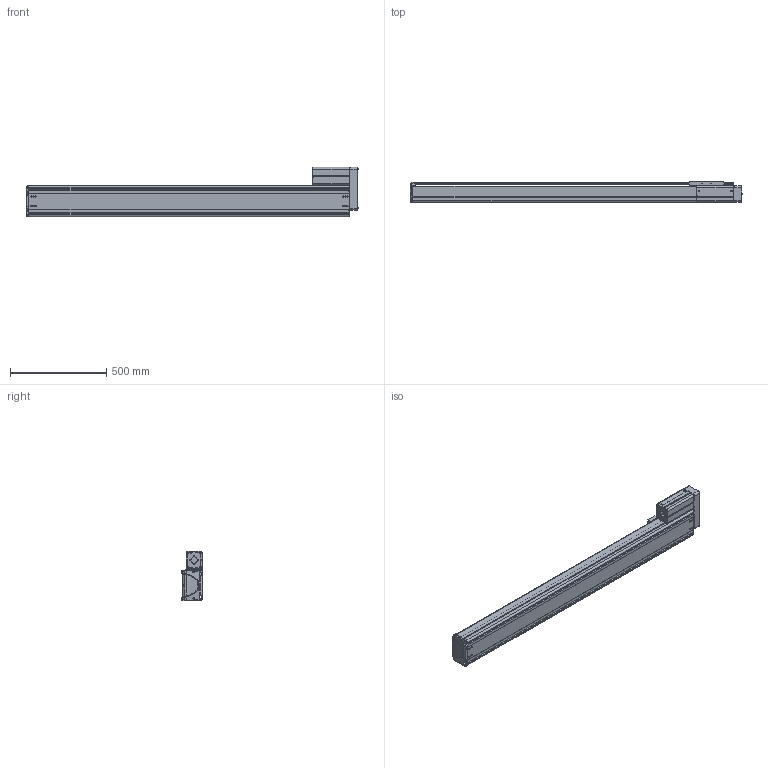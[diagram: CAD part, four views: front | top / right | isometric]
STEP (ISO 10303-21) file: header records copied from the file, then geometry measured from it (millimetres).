
FILE_DESCRIPTION((''),'2;1');
FILE_NAME('BE50F-UR-M_B-E0_IGS_PRT','2017-06-18T',(' '),(''),'PRO/ENGINEER BY PARAMETRIC TECHNOLOGY CORPORATION, 2015030','PRO/ENGINEER BY PARAMETRIC TECHNOLOGY CORPORATION, 2015030','');
FILE_SCHEMA(('CONFIG_CONTROL_DESIGN'));
Length unit declared in the file: millimetre
Products named in the file (1): BE50F-UR-M_B-E0_IGS_PRT
Bounding box: 1725.88 x 110 x 257 mm (x, y, z)
Volume: 6636666.3 mm3; surface area: 2835268.6 mm2
Topology: 7 solids, 159 shells, 2336 faces, 6426 edges, 4219 vertices
Faces by surface type: cylinder 1038, plane 1014, cone 145, torus 59, bspline 48, sphere 32
Entity records: 78185 total; most frequent: CARTESIAN_POINT 18168, DIRECTION 12479, ORIENTED_EDGE 12223, EDGE_CURVE 6388, AXIS2_PLACEMENT_3D 4470, VERTEX_POINT 4215, VECTOR 3539, LINE 3539
